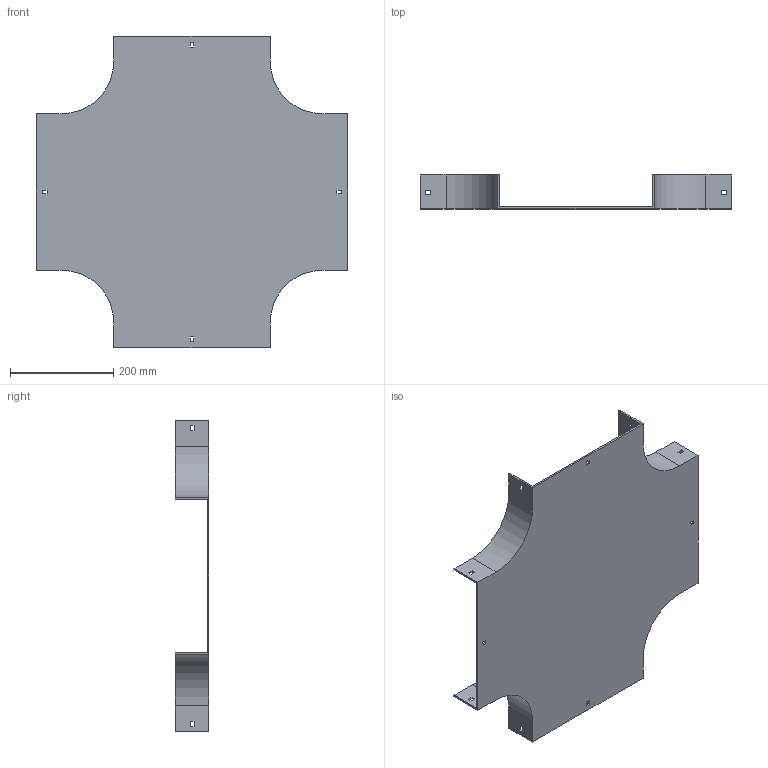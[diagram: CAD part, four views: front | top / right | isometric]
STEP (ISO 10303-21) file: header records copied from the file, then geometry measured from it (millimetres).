
FILE_DESCRIPTION (( 'STEP AP214' ), '1' );
FILE_NAME ('17B1H300.step', '2025-02-21T09:57:49', ( '' ), ( '' ), 'SwSTEP 2.0', 'SolidWorks 2023', '' );
FILE_SCHEMA (( 'AUTOMOTIVE_DESIGN' ));
Length unit declared in the file: millimetre
Products named in the file (1): 17B1H300
Bounding box: 604 x 65.5 x 604 mm (x, y, z)
Volume: 1214652.4 mm3; surface area: 705064.2 mm2
Topology: 1 solids, 1 shells, 82 faces, 240 edges, 160 vertices
Faces by surface type: plane 74, cylinder 8
Entity records: 2751 total; most frequent: CARTESIAN_POINT 483, ORIENTED_EDGE 480, DIRECTION 422, EDGE_CURVE 240, VECTOR 224, LINE 224, VERTEX_POINT 160, EDGE_LOOP 106
